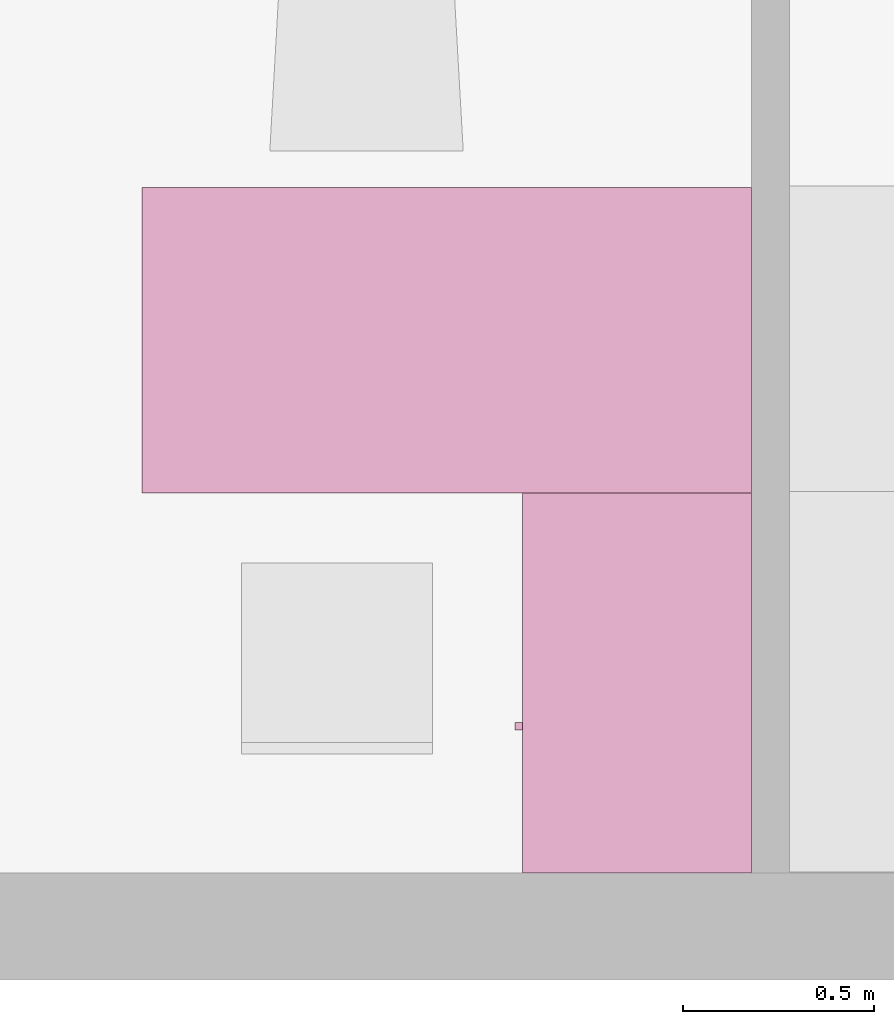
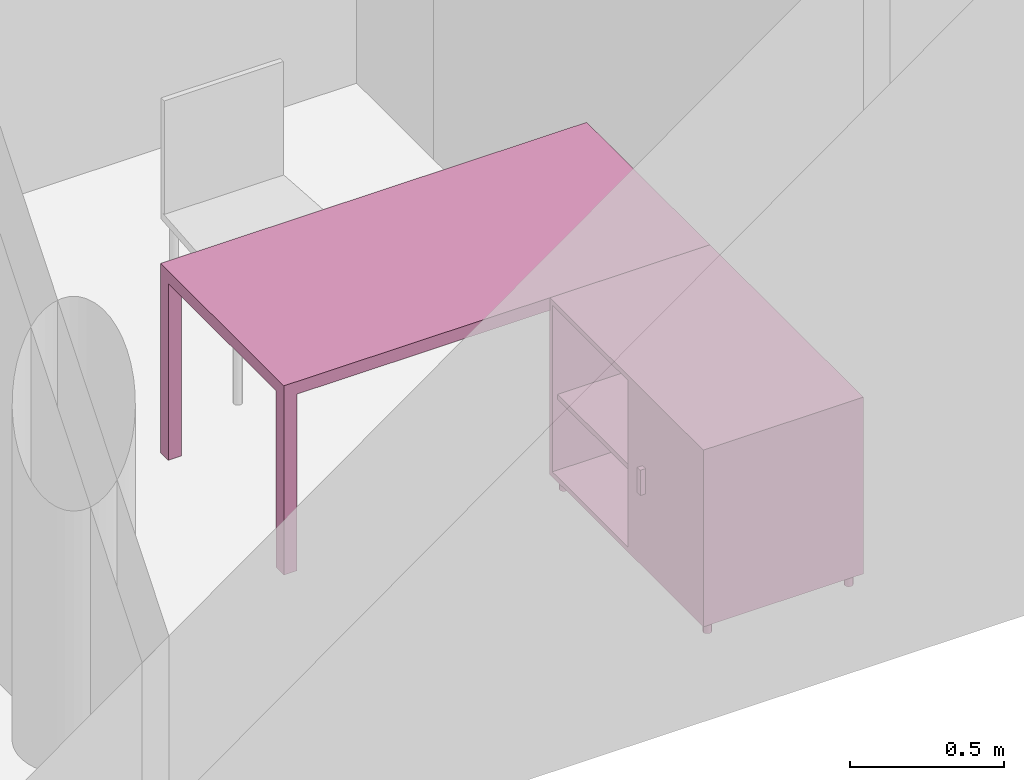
"""IFC4 building model written with IfcOpenShell, lengths in metres."""

from ifc_helpers import new_model, entity, si_unit, converted_unit, derived_unit, frame, origin, place, context, subcontext, project, spatial, faceted_brep, element, save


model = new_model("IFC4")

# Units and contexts
model_context = context("Model", 3, precision=1e-05, world=origin())
body_context = subcontext(model_context, "Body", "Model", "MODEL_VIEW")
ifc_project = project(units=[si_unit("LENGTHUNIT", "METRE"), si_unit("AREAUNIT", "SQUARE_METRE"), si_unit("VOLUMEUNIT", "CUBIC_METRE"), si_unit("MASSUNIT", "GRAM", prefix="KILO"), converted_unit("PLANEANGLEUNIT", "DEGREE", entity("IfcPlaneAngleMeasure", 0.0174532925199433), si_unit("PLANEANGLEUNIT", "RADIAN"), dimensions=[0, 0, 0, 0, 0, 0, 0]), derived_unit("THERMALTRANSMITTANCEUNIT", [(si_unit("POWERUNIT", "WATT"), 1), (si_unit("THERMODYNAMICTEMPERATUREUNIT", "KELVIN"), -1), (si_unit("LENGTHUNIT", "METRE"), -2)]), derived_unit("VOLUMETRICFLOWRATEUNIT", [(si_unit("LENGTHUNIT", "METRE"), 3), (converted_unit("TIMEUNIT", "hour", entity("IfcTimeMeasure", 3600.0), si_unit("TIMEUNIT", "SECOND"), dimensions=[0, 0, 1, 0, 0, 0, 0]), -1), (si_unit("LENGTHUNIT", "METRE"), -1)])], contexts=[model_context])

# Building, storeys
building_placement = place(None, origin())
building = spatial("IfcBuilding", under=ifc_project, at=building_placement, Name="HABITATGE PLURIFAMILIAR", CompositionType="ELEMENT")
storey_1_placement = place(building_placement, frame((0.0, 0.0, 6.25)))
storey_1 = spatial("IfcBuildingStorey", under=building, at=storey_1_placement, Name="PLANTA PRIMERA", CompositionType="ELEMENT", Elevation=6.25)
storey_2_placement = place(storey_1_placement, frame((0.0, 0.0, 3.35)))
storey_2 = spatial("IfcBuildingStorey", under=storey_1, at=storey_2_placement, Name="NOU", CompositionType="PARTIAL")

# Furniture
furniture_1_placement = place(storey_2_placement, frame((411.790665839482, 14.1165592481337, -3.35)))
element("IfcFurniture", 1, at=furniture_1_placement, inside=storey_2, Name="Taula 160X80_P1", context=body_context, shape_type="Brep", body=[
    faceted_brep([(0.05, 0.750069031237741, 0.0), (0.05, 0.800069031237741, 0.0), (0.0, 0.800069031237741, 0.0), (0.0, 0.750069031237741, 0.0), (0.05, 0.800069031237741, 0.7), (0.05, 0.750069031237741, 0.7), (0.0, 0.750069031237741, 0.7), (0.0, 0.800069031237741, 0.7)], [[[0, 1, 2, 3]], [[4, 5, 6, 7]], [[1, 0, 5, 4]], [[2, 1, 4, 7]], [[3, 2, 7, 6]], [[0, 3, 6, 5]]], orient=[[False], [False], [False], [False], [False], [False]]),
    faceted_brep([(0.05, 0.0, 0.0), (0.05, 0.05, 0.0), (0.0, 0.05, 0.0), (0.0, 0.0, 0.0), (0.05, 0.05, 0.7), (0.05, 0.0, 0.7), (0.0, 0.0, 0.7), (0.0, 0.05, 0.7)], [[[0, 1, 2, 3]], [[4, 5, 6, 7]], [[1, 0, 5, 4]], [[2, 1, 4, 7]], [[3, 2, 7, 6]], [[0, 3, 6, 5]]], orient=[[False], [False], [False], [False], [False], [False]]),
    faceted_brep([(1.596945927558, 0.0, 0.7), (1.596945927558, 0.800069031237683, 0.7), (0.0, 0.800069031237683, 0.7), (0.0, 0.0, 0.7), (1.596945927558, 0.800069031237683, 0.75), (1.596945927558, 0.0, 0.75), (0.0, 0.0, 0.75), (0.0, 0.800069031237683, 0.75)], [[[0, 1, 2, 3]], [[4, 5, 6, 7]], [[1, 0, 5, 4]], [[2, 1, 4, 7]], [[3, 2, 7, 6]], [[0, 3, 6, 5]]], orient=[[False], [False], [False], [False], [False], [False]]),
    faceted_brep([(1.596945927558, 0.750069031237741, 0.0), (1.596945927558, 0.800069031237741, 0.0), (1.546945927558, 0.800069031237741, 0.0), (1.546945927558, 0.750069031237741, 0.0), (1.596945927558, 0.800069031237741, 0.7), (1.596945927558, 0.750069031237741, 0.7), (1.546945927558, 0.750069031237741, 0.7), (1.546945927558, 0.800069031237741, 0.7)], [[[0, 1, 2, 3]], [[4, 5, 6, 7]], [[1, 0, 5, 4]], [[2, 1, 4, 7]], [[3, 2, 7, 6]], [[0, 3, 6, 5]]], orient=[[False], [False], [False], [False], [False], [False]]),
    faceted_brep([(1.596945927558, 0.0, 0.0), (1.596945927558, 0.05, 0.0), (1.546945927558, 0.05, 0.0), (1.546945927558, 0.0, 0.0), (1.596945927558, 0.05, 0.7), (1.596945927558, 0.0, 0.7), (1.546945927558, 0.0, 0.7), (1.546945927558, 0.05, 0.7)], [[[0, 1, 2, 3]], [[4, 5, 6, 7]], [[1, 0, 5, 4]], [[2, 1, 4, 7]], [[3, 2, 7, 6]], [[0, 3, 6, 5]]], orient=[[False], [False], [False], [False], [False], [False]]),
])
furniture_2_placement = place(storey_2_placement, frame((412.76761176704, 13.1205853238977, -3.35)))
element("IfcFurniture", 2, at=furniture_2_placement, inside=storey_2, Name="Taula 100X60_P1", context=body_context, shape_type="Brep", body=[
    faceted_brep([(0.620000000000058, 1.00000000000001, 0.05), (0.620000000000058, 1.00000000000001, 0.07), (0.02, 1.00000000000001, 0.07), (0.02, 1.00000000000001, 0.05), (0.02, 0.0, 0.07), (0.02, 0.0, 0.05), (0.620000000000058, 0.0, 0.07), (0.620000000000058, 0.0, 0.05)], [[[0, 1, 2, 3]], [[3, 2, 4, 5]], [[5, 4, 6, 7]], [[7, 6, 1, 0]], [[0, 3, 5, 7]], [[1, 6, 4, 2]]], orient=[[False], [False], [False], [False], [False], [False]]),
    faceted_brep([(0.04, 1.00000000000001, 0.35), (0.04, 0.0, 0.35), (0.62, 0.0, 0.35), (0.62, 1.00000000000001, 0.35), (0.62, 1.00000000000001, 0.37), (0.62, 0.0, 0.37), (0.04, 0.0, 0.37), (0.04, 1.00000000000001, 0.37)], [[[0, 1, 2, 3]], [[4, 5, 6, 7]], [[3, 4, 7, 0]], [[2, 5, 4, 3]], [[1, 6, 5, 2]], [[0, 7, 6, 1]]], orient=[[False], [False], [False], [False], [False], [False]]),
    faceted_brep([(0.04, 0.490000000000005, 0.75), (0.02, 0.490000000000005, 0.75), (0.02, 0.490000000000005, 0.05), (0.04, 0.490000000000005, 0.05), (0.02, 0.0, 0.05), (0.04, 0.0, 0.05), (0.02, 0.0, 0.75), (0.04, 0.0, 0.75)], [[[0, 1, 2, 3]], [[3, 2, 4, 5]], [[5, 4, 6, 7]], [[7, 6, 1, 0]], [[0, 3, 5, 7]], [[1, 6, 4, 2]]], orient=[[False], [False], [False], [False], [False], [False]]),
    faceted_brep([(0.62, 0.980000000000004, 0.75), (0.62, 1.0, 0.75), (0.620000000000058, 1.0, 0.0499999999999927), (0.620000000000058, 0.980000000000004, 0.0499999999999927), (0.02, 1.00000000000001, 0.05), (0.02, 0.980000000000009, 0.05), (0.02, 1.00000000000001, 0.75), (0.02, 0.980000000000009, 0.75)], [[[0, 1, 2, 3]], [[3, 2, 4, 5]], [[5, 4, 6, 7]], [[7, 6, 1, 0]], [[0, 3, 5, 7]], [[1, 6, 4, 2]]], orient=[[False], [False], [False], [False], [False], [False]]),
    faceted_brep([(0.62, 0.470000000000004, 0.75), (0.62, 0.490000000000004, 0.75), (0.620000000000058, 0.490000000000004, 0.0499999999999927), (0.620000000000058, 0.470000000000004, 0.0499999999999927), (0.02, 0.490000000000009, 0.05), (0.02, 0.470000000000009, 0.05), (0.02, 0.490000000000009, 0.75), (0.02, 0.470000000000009, 0.75)], [[[0, 1, 2, 3]], [[3, 2, 4, 5]], [[5, 4, 6, 7]], [[7, 6, 1, 0]], [[0, 3, 5, 7]], [[1, 6, 4, 2]]], orient=[[False], [False], [False], [False], [False], [False]]),
    faceted_brep([(0.620000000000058, 0.47, 0.75000000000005), (0.620000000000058, 0.490000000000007, 0.75000000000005), (0.620000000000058, 0.490000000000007, 0.0499999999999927), (0.620000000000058, 0.47, 0.0499999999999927), (0.0400000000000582, 0.490000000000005, 0.0499999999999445), (0.0400000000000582, 0.469999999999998, 0.0499999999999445), (0.04, 0.490000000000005, 0.750000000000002), (0.04, 0.469999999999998, 0.750000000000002)], [[[0, 1, 2, 3]], [[3, 2, 4, 5]], [[5, 4, 6, 7]], [[7, 6, 1, 0]], [[0, 3, 5, 7]], [[1, 6, 4, 2]]], orient=[[False], [False], [False], [False], [False], [False]]),
    faceted_brep([(0.62, 0.0, 0.75), (0.62, 0.0200000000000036, 0.75), (0.620000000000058, 0.0200000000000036, 0.0499999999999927), (0.620000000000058, 0.0, 0.0499999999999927), (0.02, 0.0200000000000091, 0.05), (0.02, 0.0, 0.05), (0.02, 0.0200000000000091, 0.75), (0.02, 0.0, 0.75)], [[[0, 1, 2, 3]], [[3, 2, 4, 5]], [[5, 4, 6, 7]], [[7, 6, 1, 0]], [[0, 3, 5, 7]], [[1, 6, 4, 2]]], orient=[[False], [False], [False], [False], [False], [False]]),
    faceted_brep([(0.620000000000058, 1.00000000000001, 0.73), (0.620000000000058, 1.00000000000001, 0.75), (0.02, 1.00000000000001, 0.75), (0.02, 1.00000000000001, 0.73), (0.02, 0.0, 0.75), (0.02, 0.0, 0.73), (0.620000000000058, 0.0, 0.75), (0.620000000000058, 0.0, 0.73)], [[[0, 1, 2, 3]], [[3, 2, 4, 5]], [[5, 4, 6, 7]], [[7, 6, 1, 0]], [[0, 3, 5, 7]], [[1, 6, 4, 2]]], orient=[[False], [False], [False], [False], [False], [False]]),
    faceted_brep([(0.62, 0.980000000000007, 0.75), (0.6, 0.980000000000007, 0.75), (0.6, 0.980000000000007, 0.05), (0.62, 0.980000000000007, 0.05), (0.6, 0.0, 0.05), (0.62, 0.0, 0.05), (0.6, 0.0, 0.75), (0.62, 0.0, 0.75)], [[[0, 1, 2, 3]], [[3, 2, 4, 5]], [[5, 4, 6, 7]], [[7, 6, 1, 0]], [[0, 3, 5, 7]], [[1, 6, 4, 2]]], orient=[[False], [False], [False], [False], [False], [False]]),
    faceted_brep([(0.02, 0.374420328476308, 0.35), (0.02, 0.394420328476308, 0.35), (0.0, 0.394420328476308, 0.35), (0.0, 0.374420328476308, 0.35), (0.02, 0.394420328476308, 0.45), (0.02, 0.374420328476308, 0.45), (0.0, 0.374420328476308, 0.45), (0.0, 0.394420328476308, 0.45)], [[[0, 1, 2, 3]], [[4, 5, 6, 7]], [[1, 0, 5, 4]], [[2, 1, 4, 7]], [[3, 2, 7, 6]], [[0, 3, 6, 5]]], orient=[[False], [False], [False], [False], [False], [False]]),
    faceted_brep([(0.583821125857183, 0.950063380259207, 0.0), (0.586415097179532, 0.950290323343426, 0.0), (0.588930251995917, 0.950964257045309, 0.0), (0.591290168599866, 0.95206470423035, 0.0), (0.59342314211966, 0.953558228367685, 0.0), (0.595264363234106, 0.955399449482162, 0.0), (0.596757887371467, 0.957532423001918, 0.0), (0.597858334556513, 0.959892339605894, 0.0), (0.598532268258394, 0.962407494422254, 0.0), (0.598759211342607, 0.96500146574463, 0.0), (0.598532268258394, 0.967595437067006, 0.0), (0.597858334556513, 0.970110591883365, 0.0), (0.596757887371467, 0.972470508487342, 0.0), (0.595264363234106, 0.974603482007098, 0.0), (0.59342314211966, 0.976444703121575, 0.0), (0.591290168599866, 0.97793822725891, 0.0), (0.588930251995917, 0.979038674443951, 0.0), (0.586415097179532, 0.979712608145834, 0.0), (0.583821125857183, 0.979939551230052, 0.0), (0.581227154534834, 0.979712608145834, 0.0), (0.578711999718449, 0.979038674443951, 0.0), (0.5763520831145, 0.97793822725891, 0.0), (0.574219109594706, 0.976444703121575, 0.0), (0.57237788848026, 0.974603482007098, 0.0), (0.570884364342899, 0.972470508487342, 0.0), (0.569783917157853, 0.970110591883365, 0.0), (0.569109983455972, 0.967595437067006, 0.0), (0.568883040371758, 0.96500146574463, 0.0), (0.569109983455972, 0.962407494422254, 0.0), (0.569783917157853, 0.959892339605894, 0.0), (0.570884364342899, 0.957532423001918, 0.0), (0.57237788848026, 0.955399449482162, 0.0), (0.574219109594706, 0.953558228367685, 0.0), (0.5763520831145, 0.95206470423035, 0.0), (0.578711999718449, 0.950964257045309, 0.0), (0.581227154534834, 0.950290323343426, 0.0), (0.583821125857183, 0.950063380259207, 0.05), (0.581227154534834, 0.950290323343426, 0.05), (0.578711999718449, 0.950964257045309, 0.05), (0.5763520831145, 0.95206470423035, 0.05), (0.574219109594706, 0.953558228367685, 0.05), (0.57237788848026, 0.955399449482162, 0.05), (0.570884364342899, 0.957532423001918, 0.05), (0.569783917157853, 0.959892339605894, 0.05), (0.569109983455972, 0.962407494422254, 0.05), (0.568883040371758, 0.96500146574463, 0.05), (0.569109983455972, 0.967595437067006, 0.05), (0.569783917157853, 0.970110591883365, 0.05), (0.570884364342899, 0.972470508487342, 0.05), (0.57237788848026, 0.974603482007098, 0.05), (0.574219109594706, 0.976444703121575, 0.05), (0.5763520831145, 0.97793822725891, 0.05), (0.578711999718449, 0.979038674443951, 0.05), (0.581227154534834, 0.979712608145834, 0.05), (0.583821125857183, 0.979939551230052, 0.05), (0.586415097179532, 0.979712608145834, 0.05), (0.588930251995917, 0.979038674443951, 0.05), (0.591290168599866, 0.97793822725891, 0.05), (0.59342314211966, 0.976444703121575, 0.05), (0.595264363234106, 0.974603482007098, 0.05), (0.596757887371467, 0.972470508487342, 0.05), (0.597858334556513, 0.970110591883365, 0.05), (0.598532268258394, 0.967595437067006, 0.05), (0.598759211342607, 0.96500146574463, 0.05), (0.598532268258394, 0.962407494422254, 0.05), (0.597858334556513, 0.959892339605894, 0.05), (0.596757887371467, 0.957532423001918, 0.05), (0.595264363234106, 0.955399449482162, 0.05), (0.59342314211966, 0.953558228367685, 0.05), (0.591290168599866, 0.95206470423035, 0.05), (0.588930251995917, 0.950964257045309, 0.05), (0.586415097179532, 0.950290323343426, 0.05)], [[[0, 1, 2, 3, 4, 5, 6, 7, 8, 9, 10, 11, 12, 13, 14, 15, 16, 17, 18, 19, 20, 21, 22, 23, 24, 25, 26, 27, 28, 29, 30, 31, 32, 33, 34, 35]], [[36, 37, 38, 39, 40, 41, 42, 43, 44, 45, 46, 47, 48, 49, 50, 51, 52, 53, 54, 55, 56, 57, 58, 59, 60, 61, 62, 63, 64, 65, 66, 67, 68, 69, 70, 71]], [[35, 37, 36, 0]], [[34, 38, 37, 35]], [[33, 39, 38, 34]], [[32, 40, 39, 33]], [[31, 41, 40, 32]], [[30, 42, 41, 31]], [[29, 43, 42, 30]], [[28, 44, 43, 29]], [[27, 45, 44, 28]], [[26, 46, 45, 27]], [[25, 47, 46, 26]], [[24, 48, 47, 25]], [[23, 49, 48, 24]], [[22, 50, 49, 23]], [[21, 51, 50, 22]], [[20, 52, 51, 21]], [[19, 53, 52, 20]], [[18, 54, 53, 19]], [[17, 55, 54, 18]], [[16, 56, 55, 17]], [[15, 57, 56, 16]], [[14, 58, 57, 15]], [[13, 59, 58, 14]], [[12, 60, 59, 13]], [[11, 61, 60, 12]], [[10, 62, 61, 11]], [[9, 63, 62, 10]], [[8, 64, 63, 9]], [[7, 65, 64, 8]], [[6, 66, 65, 7]], [[5, 67, 66, 6]], [[4, 68, 67, 5]], [[3, 69, 68, 4]], [[2, 70, 69, 3]], [[1, 71, 70, 2]], [[0, 36, 71, 1]]], orient=[[False], [False], [False], [False], [False], [False], [False], [False], [False], [False], [False], [False], [False], [False], [False], [False], [False], [False], [False], [False], [False], [False], [False], [False], [False], [False], [False], [False], [False], [False], [False], [False], [False], [False], [False], [False], [False], [False]]),
    faceted_brep([(0.0538211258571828, 0.950063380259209, 0.0), (0.0564150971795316, 0.950290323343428, 0.0), (0.0589302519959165, 0.950964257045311, 0.0), (0.0612901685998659, 0.952064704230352, 0.0), (0.06342314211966, 0.953558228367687, 0.0), (0.065264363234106, 0.955399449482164, 0.0), (0.0667578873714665, 0.95753242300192, 0.0), (0.067858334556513, 0.959892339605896, 0.0), (0.0685322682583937, 0.962407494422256, 0.0), (0.0687592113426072, 0.965001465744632, 0.0), (0.0685322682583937, 0.967595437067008, 0.0), (0.067858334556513, 0.970110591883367, 0.0), (0.0667578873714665, 0.972470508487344, 0.0), (0.065264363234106, 0.9746034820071, 0.0), (0.06342314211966, 0.976444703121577, 0.0), (0.0612901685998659, 0.977938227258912, 0.0), (0.0589302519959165, 0.979038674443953, 0.0), (0.0564150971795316, 0.979712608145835, 0.0), (0.0538211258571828, 0.979939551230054, 0.0), (0.051227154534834, 0.979712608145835, 0.0), (0.0487119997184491, 0.979038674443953, 0.0), (0.0463520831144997, 0.977938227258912, 0.0), (0.0442191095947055, 0.976444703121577, 0.0), (0.0423778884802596, 0.9746034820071, 0.0), (0.0408843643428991, 0.972470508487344, 0.0), (0.0397839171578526, 0.970110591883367, 0.0), (0.0391099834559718, 0.967595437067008, 0.0), (0.0388830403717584, 0.965001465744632, 0.0), (0.0391099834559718, 0.962407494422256, 0.0), (0.0397839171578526, 0.959892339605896, 0.0), (0.0408843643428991, 0.95753242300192, 0.0), (0.0423778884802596, 0.955399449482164, 0.0), (0.0442191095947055, 0.953558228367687, 0.0), (0.0463520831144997, 0.952064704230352, 0.0), (0.0487119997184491, 0.950964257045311, 0.0), (0.051227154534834, 0.950290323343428, 0.0), (0.0538211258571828, 0.950063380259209, 0.05), (0.051227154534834, 0.950290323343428, 0.05), (0.0487119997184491, 0.950964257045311, 0.05), (0.0463520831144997, 0.952064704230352, 0.05), (0.0442191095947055, 0.953558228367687, 0.05), (0.0423778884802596, 0.955399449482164, 0.05), (0.0408843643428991, 0.95753242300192, 0.05), (0.0397839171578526, 0.959892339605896, 0.05), (0.0391099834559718, 0.962407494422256, 0.05), (0.0388830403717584, 0.965001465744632, 0.05), (0.0391099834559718, 0.967595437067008, 0.05), (0.0397839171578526, 0.970110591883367, 0.05), (0.0408843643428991, 0.972470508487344, 0.05), (0.0423778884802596, 0.9746034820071, 0.05), (0.0442191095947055, 0.976444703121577, 0.05), (0.0463520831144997, 0.977938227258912, 0.05), (0.0487119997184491, 0.979038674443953, 0.05), (0.051227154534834, 0.979712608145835, 0.05), (0.0538211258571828, 0.979939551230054, 0.05), (0.0564150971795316, 0.979712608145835, 0.05), (0.0589302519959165, 0.979038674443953, 0.05), (0.0612901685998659, 0.977938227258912, 0.05), (0.06342314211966, 0.976444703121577, 0.05), (0.065264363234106, 0.9746034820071, 0.05), (0.0667578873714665, 0.972470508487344, 0.05), (0.067858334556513, 0.970110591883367, 0.05), (0.0685322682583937, 0.967595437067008, 0.05), (0.0687592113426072, 0.965001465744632, 0.05), (0.0685322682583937, 0.962407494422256, 0.05), (0.067858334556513, 0.959892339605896, 0.05), (0.0667578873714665, 0.95753242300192, 0.05), (0.065264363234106, 0.955399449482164, 0.05), (0.06342314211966, 0.953558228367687, 0.05), (0.0612901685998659, 0.952064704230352, 0.05), (0.0589302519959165, 0.950964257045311, 0.05), (0.0564150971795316, 0.950290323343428, 0.05)], [[[0, 1, 2, 3, 4, 5, 6, 7, 8, 9, 10, 11, 12, 13, 14, 15, 16, 17, 18, 19, 20, 21, 22, 23, 24, 25, 26, 27, 28, 29, 30, 31, 32, 33, 34, 35]], [[36, 37, 38, 39, 40, 41, 42, 43, 44, 45, 46, 47, 48, 49, 50, 51, 52, 53, 54, 55, 56, 57, 58, 59, 60, 61, 62, 63, 64, 65, 66, 67, 68, 69, 70, 71]], [[35, 37, 36, 0]], [[34, 38, 37, 35]], [[33, 39, 38, 34]], [[32, 40, 39, 33]], [[31, 41, 40, 32]], [[30, 42, 41, 31]], [[29, 43, 42, 30]], [[28, 44, 43, 29]], [[27, 45, 44, 28]], [[26, 46, 45, 27]], [[25, 47, 46, 26]], [[24, 48, 47, 25]], [[23, 49, 48, 24]], [[22, 50, 49, 23]], [[21, 51, 50, 22]], [[20, 52, 51, 21]], [[19, 53, 52, 20]], [[18, 54, 53, 19]], [[17, 55, 54, 18]], [[16, 56, 55, 17]], [[15, 57, 56, 16]], [[14, 58, 57, 15]], [[13, 59, 58, 14]], [[12, 60, 59, 13]], [[11, 61, 60, 12]], [[10, 62, 61, 11]], [[9, 63, 62, 10]], [[8, 64, 63, 9]], [[7, 65, 64, 8]], [[6, 66, 65, 7]], [[5, 67, 66, 6]], [[4, 68, 67, 5]], [[3, 69, 68, 4]], [[2, 70, 69, 3]], [[1, 71, 70, 2]], [[0, 36, 71, 1]]], orient=[[False], [False], [False], [False], [False], [False], [False], [False], [False], [False], [False], [False], [False], [False], [False], [False], [False], [False], [False], [False], [False], [False], [False], [False], [False], [False], [False], [False], [False], [False], [False], [False], [False], [False], [False], [False], [False], [False]]),
    faceted_brep([(0.0550000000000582, 0.0200170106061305, 0.0), (0.057593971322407, 0.0202439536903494, 0.0), (0.0601091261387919, 0.0209178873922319, 0.0), (0.0624690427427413, 0.022018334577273, 0.0), (0.0646020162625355, 0.023511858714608, 0.0), (0.0664432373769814, 0.0253530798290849, 0.0), (0.0679367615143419, 0.0274860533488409, 0.0), (0.0690372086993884, 0.0298459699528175, 0.0), (0.0697111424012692, 0.032361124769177, 0.0), (0.0699380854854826, 0.0349550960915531, 0.0), (0.0697111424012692, 0.0375490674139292, 0.0), (0.0690372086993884, 0.0400642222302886, 0.0), (0.0679367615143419, 0.0424241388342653, 0.0), (0.0664432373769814, 0.0445571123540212, 0.0), (0.0646020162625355, 0.0463983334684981, 0.0), (0.0624690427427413, 0.0478918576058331, 0.0), (0.0601091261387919, 0.0489923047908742, 0.0), (0.057593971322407, 0.0496662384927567, 0.0), (0.0550000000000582, 0.0498931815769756, 0.0), (0.0524060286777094, 0.0496662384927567, 0.0), (0.0498908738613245, 0.0489923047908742, 0.0), (0.0475309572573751, 0.0478918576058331, 0.0), (0.0453979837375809, 0.0463983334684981, 0.0), (0.043556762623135, 0.0445571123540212, 0.0), (0.0420632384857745, 0.0424241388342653, 0.0), (0.040962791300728, 0.0400642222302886, 0.0), (0.0402888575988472, 0.0375490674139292, 0.0), (0.0400619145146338, 0.0349550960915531, 0.0), (0.0402888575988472, 0.032361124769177, 0.0), (0.040962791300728, 0.0298459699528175, 0.0), (0.0420632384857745, 0.0274860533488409, 0.0), (0.043556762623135, 0.0253530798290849, 0.0), (0.0453979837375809, 0.023511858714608, 0.0), (0.0475309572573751, 0.022018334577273, 0.0), (0.0498908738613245, 0.0209178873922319, 0.0), (0.0524060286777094, 0.0202439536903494, 0.0), (0.0550000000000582, 0.0200170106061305, 0.05), (0.0524060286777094, 0.0202439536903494, 0.05), (0.0498908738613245, 0.0209178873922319, 0.05), (0.0475309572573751, 0.022018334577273, 0.05), (0.0453979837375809, 0.023511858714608, 0.05), (0.043556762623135, 0.0253530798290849, 0.05), (0.0420632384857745, 0.0274860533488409, 0.05), (0.040962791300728, 0.0298459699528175, 0.05), (0.0402888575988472, 0.032361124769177, 0.05), (0.0400619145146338, 0.0349550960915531, 0.05), (0.0402888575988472, 0.0375490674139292, 0.05), (0.040962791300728, 0.0400642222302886, 0.05), (0.0420632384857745, 0.0424241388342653, 0.05), (0.043556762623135, 0.0445571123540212, 0.05), (0.0453979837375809, 0.0463983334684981, 0.05), (0.0475309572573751, 0.0478918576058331, 0.05), (0.0498908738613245, 0.0489923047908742, 0.05), (0.0524060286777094, 0.0496662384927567, 0.05), (0.0550000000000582, 0.0498931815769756, 0.05), (0.057593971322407, 0.0496662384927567, 0.05), (0.0601091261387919, 0.0489923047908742, 0.05), (0.0624690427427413, 0.0478918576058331, 0.05), (0.0646020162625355, 0.0463983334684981, 0.05), (0.0664432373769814, 0.0445571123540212, 0.05), (0.0679367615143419, 0.0424241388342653, 0.05), (0.0690372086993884, 0.0400642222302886, 0.05), (0.0697111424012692, 0.0375490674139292, 0.05), (0.0699380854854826, 0.0349550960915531, 0.05), (0.0697111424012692, 0.032361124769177, 0.05), (0.0690372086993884, 0.0298459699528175, 0.05), (0.0679367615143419, 0.0274860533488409, 0.05), (0.0664432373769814, 0.0253530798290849, 0.05), (0.0646020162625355, 0.023511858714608, 0.05), (0.0624690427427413, 0.022018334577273, 0.05), (0.0601091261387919, 0.0209178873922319, 0.05), (0.057593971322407, 0.0202439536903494, 0.05)], [[[0, 1, 2, 3, 4, 5, 6, 7, 8, 9, 10, 11, 12, 13, 14, 15, 16, 17, 18, 19, 20, 21, 22, 23, 24, 25, 26, 27, 28, 29, 30, 31, 32, 33, 34, 35]], [[36, 37, 38, 39, 40, 41, 42, 43, 44, 45, 46, 47, 48, 49, 50, 51, 52, 53, 54, 55, 56, 57, 58, 59, 60, 61, 62, 63, 64, 65, 66, 67, 68, 69, 70, 71]], [[35, 37, 36, 0]], [[34, 38, 37, 35]], [[33, 39, 38, 34]], [[32, 40, 39, 33]], [[31, 41, 40, 32]], [[30, 42, 41, 31]], [[29, 43, 42, 30]], [[28, 44, 43, 29]], [[27, 45, 44, 28]], [[26, 46, 45, 27]], [[25, 47, 46, 26]], [[24, 48, 47, 25]], [[23, 49, 48, 24]], [[22, 50, 49, 23]], [[21, 51, 50, 22]], [[20, 52, 51, 21]], [[19, 53, 52, 20]], [[18, 54, 53, 19]], [[17, 55, 54, 18]], [[16, 56, 55, 17]], [[15, 57, 56, 16]], [[14, 58, 57, 15]], [[13, 59, 58, 14]], [[12, 60, 59, 13]], [[11, 61, 60, 12]], [[10, 62, 61, 11]], [[9, 63, 62, 10]], [[8, 64, 63, 9]], [[7, 65, 64, 8]], [[6, 66, 65, 7]], [[5, 67, 66, 6]], [[4, 68, 67, 5]], [[3, 69, 68, 4]], [[2, 70, 69, 3]], [[1, 71, 70, 2]], [[0, 36, 71, 1]]], orient=[[False], [False], [False], [False], [False], [False], [False], [False], [False], [False], [False], [False], [False], [False], [False], [False], [False], [False], [False], [False], [False], [False], [False], [False], [False], [False], [False], [False], [False], [False], [False], [False], [False], [False], [False], [False], [False], [False]]),
    faceted_brep([(0.585033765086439, 0.0203520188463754, 0.0), (0.587627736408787, 0.0205789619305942, 0.0), (0.590142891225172, 0.0212528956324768, 0.0), (0.592502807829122, 0.0223533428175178, 0.0), (0.594635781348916, 0.0238468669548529, 0.0), (0.596477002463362, 0.0256880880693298, 0.0), (0.597970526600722, 0.0278210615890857, 0.0), (0.599070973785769, 0.0301809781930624, 0.0), (0.59974490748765, 0.0326961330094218, 0.0), (0.599971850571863, 0.0352901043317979, 0.0), (0.59974490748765, 0.037884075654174, 0.0), (0.599070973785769, 0.0403992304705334, 0.0), (0.597970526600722, 0.0427591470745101, 0.0), (0.596477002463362, 0.0448921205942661, 0.0), (0.594635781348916, 0.046733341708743, 0.0), (0.592502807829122, 0.048226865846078, 0.0), (0.590142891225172, 0.049327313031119, 0.0), (0.587627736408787, 0.0500012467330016, 0.0), (0.585033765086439, 0.0502281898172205, 0.0), (0.58243979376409, 0.0500012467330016, 0.0), (0.579924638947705, 0.049327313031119, 0.0), (0.577564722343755, 0.048226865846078, 0.0), (0.575431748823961, 0.046733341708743, 0.0), (0.573590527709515, 0.0448921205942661, 0.0), (0.572097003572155, 0.0427591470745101, 0.0), (0.570996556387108, 0.0403992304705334, 0.0), (0.570322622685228, 0.037884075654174, 0.0), (0.570095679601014, 0.0352901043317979, 0.0), (0.570322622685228, 0.0326961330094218, 0.0), (0.570996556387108, 0.0301809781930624, 0.0), (0.572097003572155, 0.0278210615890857, 0.0), (0.573590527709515, 0.0256880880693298, 0.0), (0.575431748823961, 0.0238468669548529, 0.0), (0.577564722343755, 0.0223533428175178, 0.0), (0.579924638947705, 0.0212528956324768, 0.0), (0.58243979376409, 0.0205789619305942, 0.0), (0.585033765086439, 0.0203520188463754, 0.05), (0.58243979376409, 0.0205789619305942, 0.05), (0.579924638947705, 0.0212528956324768, 0.05), (0.577564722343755, 0.0223533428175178, 0.05), (0.575431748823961, 0.0238468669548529, 0.05), (0.573590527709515, 0.0256880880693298, 0.05), (0.572097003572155, 0.0278210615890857, 0.05), (0.570996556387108, 0.0301809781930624, 0.05), (0.570322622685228, 0.0326961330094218, 0.05), (0.570095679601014, 0.0352901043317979, 0.05), (0.570322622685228, 0.037884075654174, 0.05), (0.570996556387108, 0.0403992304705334, 0.05), (0.572097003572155, 0.0427591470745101, 0.05), (0.573590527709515, 0.0448921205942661, 0.05), (0.575431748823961, 0.046733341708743, 0.05), (0.577564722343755, 0.048226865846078, 0.05), (0.579924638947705, 0.049327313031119, 0.05), (0.58243979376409, 0.0500012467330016, 0.05), (0.585033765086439, 0.0502281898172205, 0.05), (0.587627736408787, 0.0500012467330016, 0.05), (0.590142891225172, 0.049327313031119, 0.05), (0.592502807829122, 0.048226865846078, 0.05), (0.594635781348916, 0.046733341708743, 0.05), (0.596477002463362, 0.0448921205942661, 0.05), (0.597970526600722, 0.0427591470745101, 0.05), (0.599070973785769, 0.0403992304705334, 0.05), (0.59974490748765, 0.037884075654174, 0.05), (0.599971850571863, 0.0352901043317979, 0.05), (0.59974490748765, 0.0326961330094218, 0.05), (0.599070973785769, 0.0301809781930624, 0.05), (0.597970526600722, 0.0278210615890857, 0.05), (0.596477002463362, 0.0256880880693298, 0.05), (0.594635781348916, 0.0238468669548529, 0.05), (0.592502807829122, 0.0223533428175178, 0.05), (0.590142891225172, 0.0212528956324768, 0.05), (0.587627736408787, 0.0205789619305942, 0.05)], [[[0, 1, 2, 3, 4, 5, 6, 7, 8, 9, 10, 11, 12, 13, 14, 15, 16, 17, 18, 19, 20, 21, 22, 23, 24, 25, 26, 27, 28, 29, 30, 31, 32, 33, 34, 35]], [[36, 37, 38, 39, 40, 41, 42, 43, 44, 45, 46, 47, 48, 49, 50, 51, 52, 53, 54, 55, 56, 57, 58, 59, 60, 61, 62, 63, 64, 65, 66, 67, 68, 69, 70, 71]], [[35, 37, 36, 0]], [[34, 38, 37, 35]], [[33, 39, 38, 34]], [[32, 40, 39, 33]], [[31, 41, 40, 32]], [[30, 42, 41, 31]], [[29, 43, 42, 30]], [[28, 44, 43, 29]], [[27, 45, 44, 28]], [[26, 46, 45, 27]], [[25, 47, 46, 26]], [[24, 48, 47, 25]], [[23, 49, 48, 24]], [[22, 50, 49, 23]], [[21, 51, 50, 22]], [[20, 52, 51, 21]], [[19, 53, 52, 20]], [[18, 54, 53, 19]], [[17, 55, 54, 18]], [[16, 56, 55, 17]], [[15, 57, 56, 16]], [[14, 58, 57, 15]], [[13, 59, 58, 14]], [[12, 60, 59, 13]], [[11, 61, 60, 12]], [[10, 62, 61, 11]], [[9, 63, 62, 10]], [[8, 64, 63, 9]], [[7, 65, 64, 8]], [[6, 66, 65, 7]], [[5, 67, 66, 6]], [[4, 68, 67, 5]], [[3, 69, 68, 4]], [[2, 70, 69, 3]], [[1, 71, 70, 2]], [[0, 36, 71, 1]]], orient=[[False], [False], [False], [False], [False], [False], [False], [False], [False], [False], [False], [False], [False], [False], [False], [False], [False], [False], [False], [False], [False], [False], [False], [False], [False], [False], [False], [False], [False], [False], [False], [False], [False], [False], [False], [False], [False], [False]]),
])

save(model, "model.ifc")
